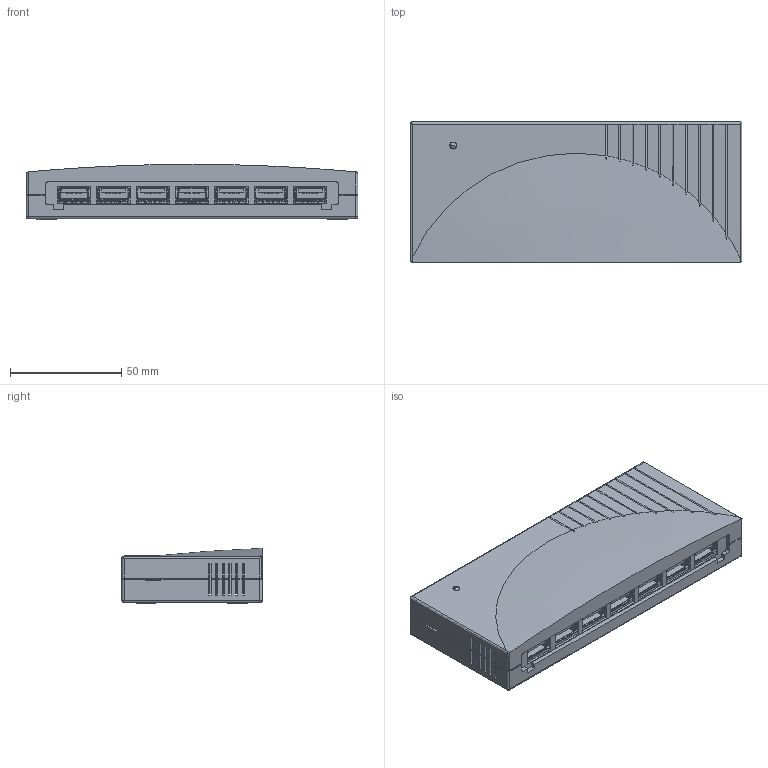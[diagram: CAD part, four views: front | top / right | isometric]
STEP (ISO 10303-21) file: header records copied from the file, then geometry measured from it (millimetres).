
FILE_DESCRIPTION(('FreeCAD Model'),'2;1');
FILE_NAME('X:/Technische Zeichnungen/EX-1171/EX-1171_3D.step', '2018-12-17T14:09:40',('Author'),(''), 'Open CASCADE STEP processor 6.8','FreeCAD','Unknown');
FILE_SCHEMA(('AUTOMOTIVE_DESIGN_CC2 { 1 2 10303 214 -1 1 5 4 }'));
Products named in the file (1): EX-1171_3D
Bounding box: 149.2 x 63.1 x 24.89 mm (x, y, z)
Volume: 51683.9 mm3; surface area: 88355.5 mm2
Topology: 6 solids, 6 shells, 3012 faces, 8774 edges, 5765 vertices
Faces by surface type: plane 2315, cylinder 668, sphere 14, torus 11, cone 4
Full cylindrical faces by diameter (mm): 2.4 x4, 3 x10, 3.1 x1, 4 x2, 4.4 x10, 6 x5, 6.4 x2
Entity records: 306178 total; most frequent: CARTESIAN_POINT 119078, DIRECTION 28241, LINE 18132, VECTOR 18132, ORIENTED_EDGE 17524, PCURVE 17524, DEFINITIONAL_REPRESENTATION 17524, EDGE_CURVE 8762
